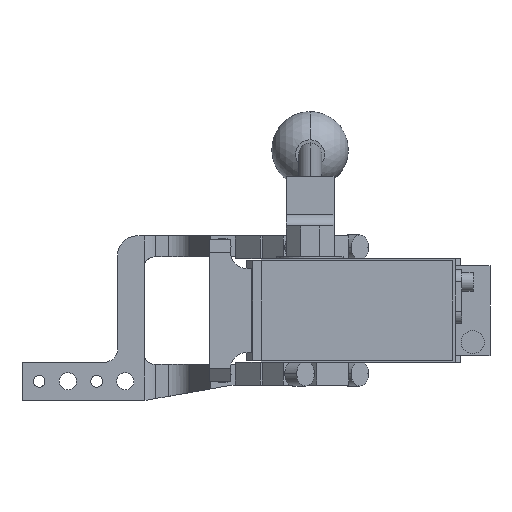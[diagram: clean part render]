
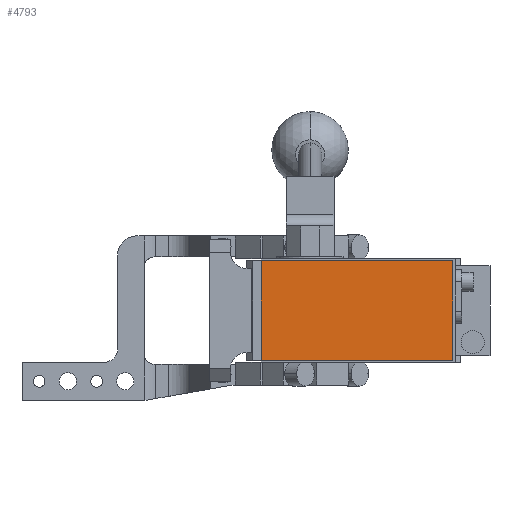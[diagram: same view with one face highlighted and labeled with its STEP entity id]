
A CAD part, front view. The second image highlights one B-rep face of the part: STEP entity #4793.
In plain terms, the highlighted planar face has unit normal (0, -1, 0).
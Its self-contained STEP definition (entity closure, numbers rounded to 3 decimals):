
#503 = DIRECTION ( 'NONE',  ( 0., 0., -1. ) ) ;
#557 = CARTESIAN_POINT ( 'NONE',  ( 0., -286.5, 0. ) ) ;
#741 = LINE ( 'NONE', #8189, #5922 ) ;
#902 = VERTEX_POINT ( 'NONE', #12743 ) ;
#1097 = CARTESIAN_POINT ( 'NONE',  ( 81., -286.5, 26. ) ) ;
#1144 = EDGE_CURVE ( 'NONE', #3020, #9812, #4925, .T. ) ;
#1990 = PLANE ( 'NONE',  #13038 ) ;
#2046 = VECTOR ( 'NONE', #8652, 1000. ) ;
#2721 = ORIENTED_EDGE ( 'NONE', *, *, #15340, .T. ) ;
#3020 = VERTEX_POINT ( 'NONE', #1097 ) ;
#3651 = CARTESIAN_POINT ( 'NONE',  ( 81., -286.5, 26. ) ) ;
#4631 = DIRECTION ( 'NONE',  ( 1., 0., 0. ) ) ;
#4793 = ADVANCED_FACE ( 'NONE', ( #15588 ), #1990, .T. ) ;
#4925 = LINE ( 'NONE', #16062, #7857 ) ;
#5273 = VERTEX_POINT ( 'NONE', #12684 ) ;
#5922 = VECTOR ( 'NONE', #503, 1000. ) ;
#6702 = EDGE_LOOP ( 'NONE', ( #15059, #2721, #8993, #10365 ) ) ;
#7032 = LINE ( 'NONE', #8418, #14146 ) ;
#7857 = VECTOR ( 'NONE', #9766, 1000. ) ;
#8189 = CARTESIAN_POINT ( 'NONE',  ( -19., -286.5, 26. ) ) ;
#8228 = DIRECTION ( 'NONE',  ( 0., 0., -1. ) ) ;
#8418 = CARTESIAN_POINT ( 'NONE',  ( -19., -286.5, -26. ) ) ;
#8652 = DIRECTION ( 'NONE',  ( 0., 0., 1. ) ) ;
#8993 = ORIENTED_EDGE ( 'NONE', *, *, #10097, .T. ) ;
#9766 = DIRECTION ( 'NONE',  ( -1., 0., 0. ) ) ;
#9812 = VERTEX_POINT ( 'NONE', #11617 ) ;
#9990 = EDGE_CURVE ( 'NONE', #9812, #5273, #741, .T. ) ;
#10097 = EDGE_CURVE ( 'NONE', #902, #3020, #14868, .T. ) ;
#10365 = ORIENTED_EDGE ( 'NONE', *, *, #1144, .T. ) ;
#11617 = CARTESIAN_POINT ( 'NONE',  ( -19., -286.5, 26. ) ) ;
#12684 = CARTESIAN_POINT ( 'NONE',  ( -19., -286.5, -26. ) ) ;
#12743 = CARTESIAN_POINT ( 'NONE',  ( 81., -286.5, -26. ) ) ;
#13038 = AXIS2_PLACEMENT_3D ( 'NONE', #557, #15671, #8228 ) ;
#14146 = VECTOR ( 'NONE', #4631, 1000. ) ;
#14868 = LINE ( 'NONE', #3651, #2046 ) ;
#15059 = ORIENTED_EDGE ( 'NONE', *, *, #9990, .T. ) ;
#15340 = EDGE_CURVE ( 'NONE', #5273, #902, #7032, .T. ) ;
#15588 = FACE_OUTER_BOUND ( 'NONE', #6702, .T. ) ;
#15671 = DIRECTION ( 'NONE',  ( 0., -1., 0. ) ) ;
#16062 = CARTESIAN_POINT ( 'NONE',  ( -19., -286.5, 26. ) ) ;
